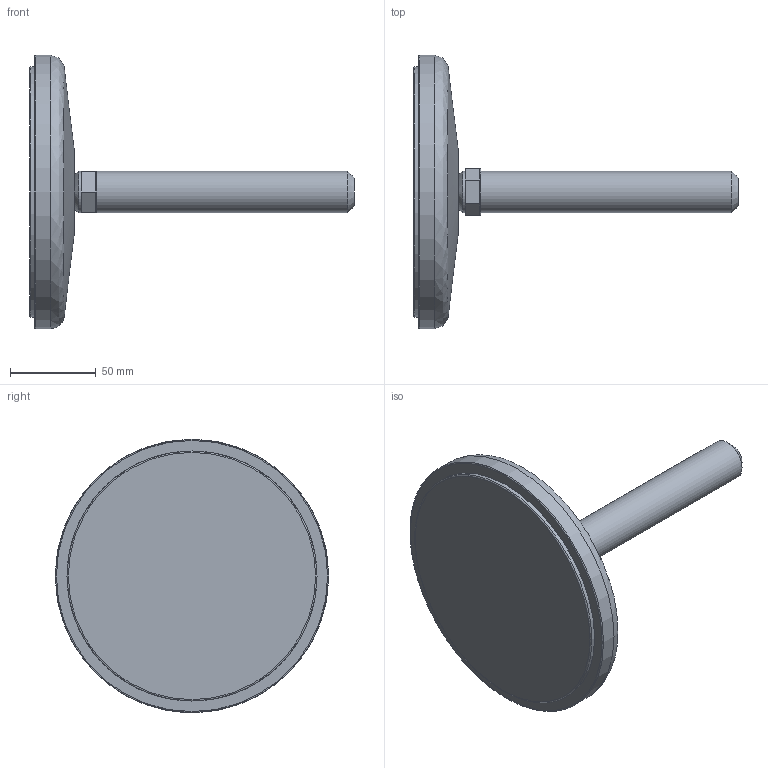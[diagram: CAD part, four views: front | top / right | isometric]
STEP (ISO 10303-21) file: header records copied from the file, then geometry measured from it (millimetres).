
FILE_DESCRIPTION(('STEP AP203'),'2;1');
FILE_NAME('11471-24.stp','2016-02-08T10:12:33',(''),(''),'2008.1.107','THINKDESIGN','');
FILE_SCHEMA(('CONFIG_CONTROL_DESIGN'));
Length unit declared in the file: millimetre
Bounding box: 189 x 159 x 159 mm (x, y, z)
Volume: 499495.5 mm3; surface area: 100039.3 mm2
Topology: 6 solids, 6 shells, 47 faces, 107 edges, 74 vertices
Faces by surface type: plane 26, cylinder 13, bspline 8
Full cylindrical faces by diameter (mm): 11 x1, 24 x3, 145.5 x2, 159 x1
Entity records: 1984 total; most frequent: CARTESIAN_POINT 813, DIRECTION 228, ORIENTED_EDGE 214, EDGE_CURVE 107, AXIS2_PLACEMENT_3D 88, VERTEX_POINT 74, VECTOR 52, LINE 52
